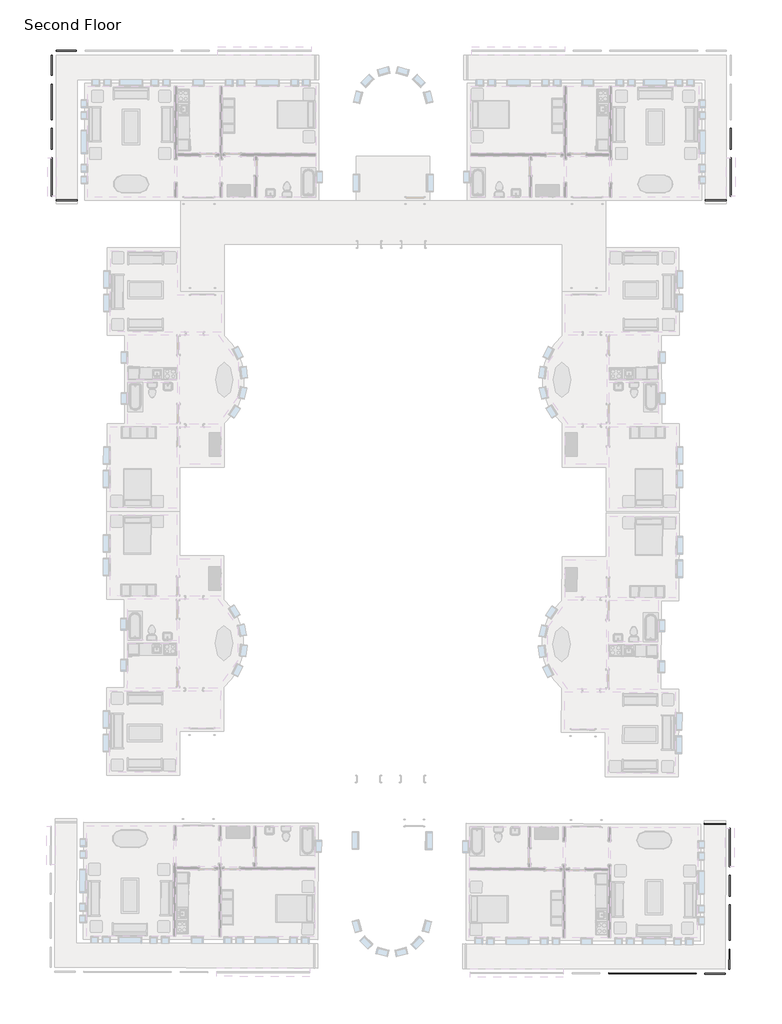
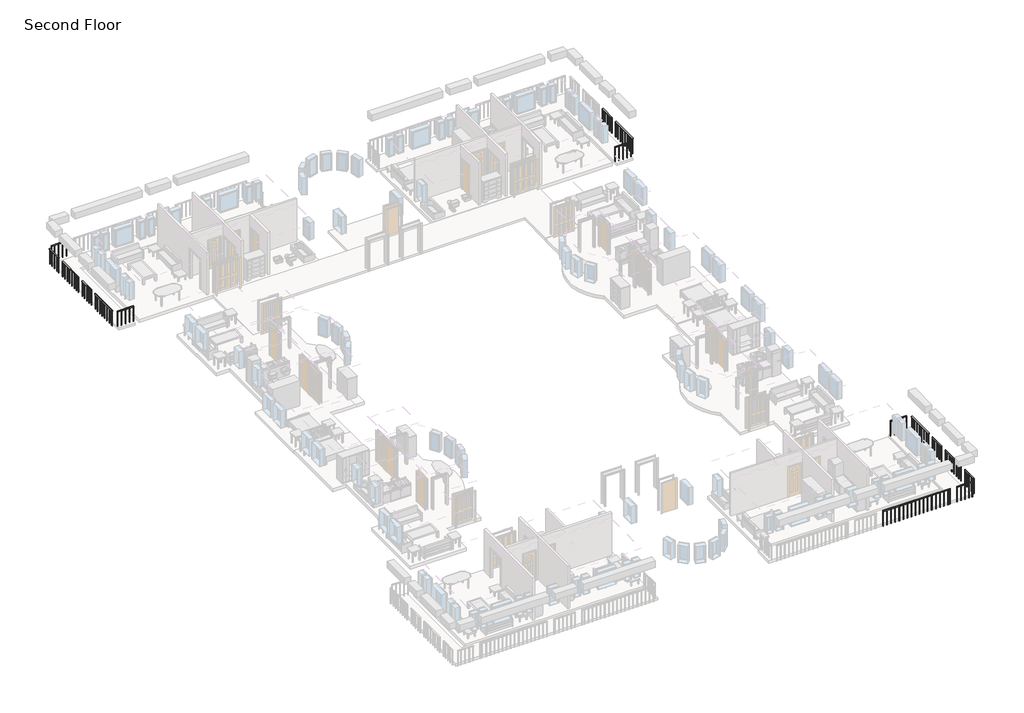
# One storey, part 5 of 8: 16 railings.
"""IFC4 building model written with IfcOpenShell, lengths in millimetres."""

from ifc_helpers import new_model, si_unit, frame, origin, place, context, project, spatial, polyline, outline, extrude, element, save

model = new_model("IFC4")

# Units and contexts
model_context = context("Model", 3, world=origin())
ifc_project = project(units=[si_unit("LENGTHUNIT", "METRE", prefix="MILLI")], contexts=[model_context])

# Site, building, storey
site = spatial("IfcSite", under=ifc_project)
building = spatial("IfcBuilding", under=site)
storey = spatial("IfcBuildingStorey", under=building, Name="Second Floor", Elevation=3048.0)

# Railings
placement = place(None, origin())
element("IfcRailing", 1, ObjectType="1100mm", at=placement, inside=storey, context=model_context, shape_type="SweptSolid", body=[
    extrude(outline(polyline([(-1443.3416203, 231.1188386), (-1393.3416203, 231.1188386), (-1393.3416203, -845.3811614), (-1443.3416203, -845.3811614), (-1443.3416203, 231.1188386)])), frame((0.0, 0.0, 4098.0), z_axis=(0.0, 0.0, 1.0), x_axis=(1.0, 0.0, 0.0)), (0.0, 0.0, 1.0), 50.0),
    extrude(outline(polyline([(-1430.8416203, -581.3811614), (-1405.8416203, -581.3811614), (-1405.8416203, -606.3811614), (-1430.8416203, -606.3811614), (-1430.8416203, -581.3811614)])), frame((0.0, 0.0, 3048.0), z_axis=(0.0, 0.0, 1.0), x_axis=(1.0, 0.0, 0.0)), (0.0, 0.0, 1.0), 1050.0),
    extrude(outline(polyline([(-1430.8416203, -306.3811614), (-1405.8416203, -306.3811614), (-1405.8416203, -331.3811614), (-1430.8416203, -331.3811614), (-1430.8416203, -306.3811614)])), frame((0.0, 0.0, 3048.0), z_axis=(0.0, 0.0, 1.0), x_axis=(1.0, 0.0, 0.0)), (0.0, 0.0, 1.0), 1050.0),
    extrude(outline(polyline([(-1430.8416203, -31.3811614), (-1405.8416203, -31.3811614), (-1405.8416203, -56.3811614), (-1430.8416203, -56.3811614), (-1430.8416203, -31.3811614)])), frame((0.0, 0.0, 3048.0), z_axis=(0.0, 0.0, 1.0), x_axis=(1.0, 0.0, 0.0)), (0.0, 0.0, 1.0), 1050.0),
    extrude(outline(polyline([(-1430.8416203, -820.3811614), (-1405.8416203, -820.3811614), (-1405.8416203, -845.3811614), (-1430.8416203, -845.3811614), (-1430.8416203, -820.3811614)])), frame((0.0, 0.0, 3048.0), z_axis=(0.0, 0.0, 1.0), x_axis=(1.0, 0.0, 0.0)), (0.0, 0.0, 1.0), 1050.0),
    extrude(outline(polyline([(-1430.8416203, 231.1188386), (-1405.8416203, 231.1188386), (-1405.8416203, 206.1188386), (-1430.8416203, 206.1188386), (-1430.8416203, 231.1188386)])), frame((0.0, 0.0, 3048.0), z_axis=(0.0, 0.0, 1.0), x_axis=(1.0, 0.0, 0.0)), (0.0, 0.0, 1.0), 1050.0),
])
element("IfcRailing", 2, ObjectType="1100mm", at=placement, inside=storey, context=model_context, shape_type="SweptSolid", body=[
    extrude(outline(polyline([(-1443.3416203, -1295.3811614), (-1393.3416203, -1295.3811614), (-1393.3416203, -3289.8811614), (-1443.3416203, -3289.8811614), (-1443.3416203, -1295.3811614)])), frame((0.0, 0.0, 4098.0), z_axis=(0.0, 0.0, 1.0), x_axis=(1.0, 0.0, 0.0)), (0.0, 0.0, 1.0), 50.0),
    extrude(outline(polyline([(-1430.8416203, -3207.8811614), (-1405.8416203, -3207.8811614), (-1405.8416203, -3232.8811614), (-1430.8416203, -3232.8811614), (-1430.8416203, -3207.8811614)])), frame((0.0, 0.0, 3048.0), z_axis=(0.0, 0.0, 1.0), x_axis=(1.0, 0.0, 0.0)), (0.0, 0.0, 1.0), 1050.0),
    extrude(outline(polyline([(-1430.8416203, -2932.8811614), (-1405.8416203, -2932.8811614), (-1405.8416203, -2957.8811614), (-1430.8416203, -2957.8811614), (-1430.8416203, -2932.8811614)])), frame((0.0, 0.0, 3048.0), z_axis=(0.0, 0.0, 1.0), x_axis=(1.0, 0.0, 0.0)), (0.0, 0.0, 1.0), 1050.0),
    extrude(outline(polyline([(-1430.8416203, -2657.8811614), (-1405.8416203, -2657.8811614), (-1405.8416203, -2682.8811614), (-1430.8416203, -2682.8811614), (-1430.8416203, -2657.8811614)])), frame((0.0, 0.0, 3048.0), z_axis=(0.0, 0.0, 1.0), x_axis=(1.0, 0.0, 0.0)), (0.0, 0.0, 1.0), 1050.0),
    extrude(outline(polyline([(-1430.8416203, -2382.8811614), (-1405.8416203, -2382.8811614), (-1405.8416203, -2407.8811614), (-1430.8416203, -2407.8811614), (-1430.8416203, -2382.8811614)])), frame((0.0, 0.0, 3048.0), z_axis=(0.0, 0.0, 1.0), x_axis=(1.0, 0.0, 0.0)), (0.0, 0.0, 1.0), 1050.0),
    extrude(outline(polyline([(-1430.8416203, -2107.8811614), (-1405.8416203, -2107.8811614), (-1405.8416203, -2132.8811614), (-1430.8416203, -2132.8811614), (-1430.8416203, -2107.8811614)])), frame((0.0, 0.0, 3048.0), z_axis=(0.0, 0.0, 1.0), x_axis=(1.0, 0.0, 0.0)), (0.0, 0.0, 1.0), 1050.0),
    extrude(outline(polyline([(-1430.8416203, -1832.8811614), (-1405.8416203, -1832.8811614), (-1405.8416203, -1857.8811614), (-1430.8416203, -1857.8811614), (-1430.8416203, -1832.8811614)])), frame((0.0, 0.0, 3048.0), z_axis=(0.0, 0.0, 1.0), x_axis=(1.0, 0.0, 0.0)), (0.0, 0.0, 1.0), 1050.0),
    extrude(outline(polyline([(-1430.8416203, -1557.8811614), (-1405.8416203, -1557.8811614), (-1405.8416203, -1582.8811614), (-1430.8416203, -1582.8811614), (-1430.8416203, -1557.8811614)])), frame((0.0, 0.0, 3048.0), z_axis=(0.0, 0.0, 1.0), x_axis=(1.0, 0.0, 0.0)), (0.0, 0.0, 1.0), 1050.0),
    extrude(outline(polyline([(-1430.8416203, -3264.8811614), (-1405.8416203, -3264.8811614), (-1405.8416203, -3289.8811614), (-1430.8416203, -3289.8811614), (-1430.8416203, -3264.8811614)])), frame((0.0, 0.0, 3048.0), z_axis=(0.0, 0.0, 1.0), x_axis=(1.0, 0.0, 0.0)), (0.0, 0.0, 1.0), 1050.0),
    extrude(outline(polyline([(-1430.8416203, -1295.3811614), (-1405.8416203, -1295.3811614), (-1405.8416203, -1320.3811614), (-1430.8416203, -1320.3811614), (-1430.8416203, -1295.3811614)])), frame((0.0, 0.0, 3048.0), z_axis=(0.0, 0.0, 1.0), x_axis=(1.0, 0.0, 0.0)), (0.0, 0.0, 1.0), 1050.0),
])
element("IfcRailing", 3, ObjectType="1100mm", at=placement, inside=storey, context=model_context, shape_type="SweptSolid", body=[
    extrude(outline(polyline([(-1643.3416203, -3489.8811614), (-1643.3416203, -3539.8811614), (-2743.3416203, -3539.8811614), (-2743.3416203, -3489.8811614), (-1643.3416203, -3489.8811614)])), frame((0.0, 0.0, 4098.0), z_axis=(0.0, 0.0, 1.0), x_axis=(1.0, 0.0, 0.0)), (0.0, 0.0, 1.0), 50.0),
    extrude(outline(polyline([(-2455.8416203, -3502.3811614), (-2455.8416203, -3527.3811614), (-2480.8416203, -3527.3811614), (-2480.8416203, -3502.3811614), (-2455.8416203, -3502.3811614)])), frame((0.0, 0.0, 3048.0), z_axis=(0.0, 0.0, 1.0), x_axis=(1.0, 0.0, 0.0)), (0.0, 0.0, 1.0), 1050.0),
    extrude(outline(polyline([(-2180.8416203, -3502.3811614), (-2180.8416203, -3527.3811614), (-2205.8416203, -3527.3811614), (-2205.8416203, -3502.3811614), (-2180.8416203, -3502.3811614)])), frame((0.0, 0.0, 3048.0), z_axis=(0.0, 0.0, 1.0), x_axis=(1.0, 0.0, 0.0)), (0.0, 0.0, 1.0), 1050.0),
    extrude(outline(polyline([(-1905.8416203, -3502.3811614), (-1905.8416203, -3527.3811614), (-1930.8416203, -3527.3811614), (-1930.8416203, -3502.3811614), (-1905.8416203, -3502.3811614)])), frame((0.0, 0.0, 3048.0), z_axis=(0.0, 0.0, 1.0), x_axis=(1.0, 0.0, 0.0)), (0.0, 0.0, 1.0), 1050.0),
    extrude(outline(polyline([(-2718.3416203, -3502.3811614), (-2718.3416203, -3527.3811614), (-2743.3416203, -3527.3811614), (-2743.3416203, -3502.3811614), (-2718.3416203, -3502.3811614)])), frame((0.0, 0.0, 3048.0), z_axis=(0.0, 0.0, 1.0), x_axis=(1.0, 0.0, 0.0)), (0.0, 0.0, 1.0), 1050.0),
    extrude(outline(polyline([(-1643.3416203, -3502.3811614), (-1643.3416203, -3527.3811614), (-1668.3416203, -3527.3811614), (-1668.3416203, -3502.3811614), (-1643.3416203, -3502.3811614)])), frame((0.0, 0.0, 3048.0), z_axis=(0.0, 0.0, 1.0), x_axis=(1.0, 0.0, 0.0)), (0.0, 0.0, 1.0), 1050.0),
])
element("IfcRailing", 4, ObjectType="1100mm", at=placement, inside=storey, context=model_context, shape_type="SweptSolid", body=[
    extrude(outline(polyline([(-35408.8416203, 4281.1188386), (-35408.8416203, 4231.1188386), (-36458.8416203, 4231.1188386), (-36458.8416203, 4281.1188386), (-35408.8416203, 4281.1188386)])), frame((0.0, 0.0, 4098.0), z_axis=(0.0, 0.0, 1.0), x_axis=(1.0, 0.0, 0.0)), (0.0, 0.0, 1.0), 50.0),
    extrude(outline(polyline([(-36221.3416203, 4243.6188386), (-36246.3416203, 4243.6188386), (-36246.3416203, 4268.6188386), (-36221.3416203, 4268.6188386), (-36221.3416203, 4243.6188386)])), frame((0.0, 0.0, 3048.0), z_axis=(0.0, 0.0, 1.0), x_axis=(1.0, 0.0, 0.0)), (0.0, 0.0, 1.0), 1050.0),
    extrude(outline(polyline([(-35946.3416203, 4243.6188386), (-35971.3416203, 4243.6188386), (-35971.3416203, 4268.6188386), (-35946.3416203, 4268.6188386), (-35946.3416203, 4243.6188386)])), frame((0.0, 0.0, 3048.0), z_axis=(0.0, 0.0, 1.0), x_axis=(1.0, 0.0, 0.0)), (0.0, 0.0, 1.0), 1050.0),
    extrude(outline(polyline([(-35671.3416203, 4243.6188386), (-35696.3416203, 4243.6188386), (-35696.3416203, 4268.6188386), (-35671.3416203, 4268.6188386), (-35671.3416203, 4243.6188386)])), frame((0.0, 0.0, 3048.0), z_axis=(0.0, 0.0, 1.0), x_axis=(1.0, 0.0, 0.0)), (0.0, 0.0, 1.0), 1050.0),
    extrude(outline(polyline([(-36433.8416203, 4243.6188386), (-36458.8416203, 4243.6188386), (-36458.8416203, 4268.6188386), (-36433.8416203, 4268.6188386), (-36433.8416203, 4243.6188386)])), frame((0.0, 0.0, 3048.0), z_axis=(0.0, 0.0, 1.0), x_axis=(1.0, 0.0, 0.0)), (0.0, 0.0, 1.0), 1050.0),
    extrude(outline(polyline([(-35408.8416203, 4243.6188386), (-35433.8416203, 4243.6188386), (-35433.8416203, 4268.6188386), (-35408.8416203, 4268.6188386), (-35408.8416203, 4243.6188386)])), frame((0.0, 0.0, 3048.0), z_axis=(0.0, 0.0, 1.0), x_axis=(1.0, 0.0, 0.0)), (0.0, 0.0, 1.0), 1050.0),
])
element("IfcRailing", 5, ObjectType="1100mm", at=placement, inside=storey, context=model_context, shape_type="SweptSolid", body=[
    extrude(outline(polyline([(-36708.8416203, 4031.1188386), (-36658.8416203, 4031.1188386), (-36658.8416203, 2981.1188386), (-36708.8416203, 2981.1188386), (-36708.8416203, 4031.1188386)])), frame((0.0, 0.0, 4098.0), z_axis=(0.0, 0.0, 1.0), x_axis=(1.0, 0.0, 0.0)), (0.0, 0.0, 1.0), 50.0),
    extrude(outline(polyline([(-36671.3416203, 3218.6188386), (-36671.3416203, 3193.6188386), (-36696.3416203, 3193.6188386), (-36696.3416203, 3218.6188386), (-36671.3416203, 3218.6188386)])), frame((0.0, 0.0, 3048.0), z_axis=(0.0, 0.0, 1.0), x_axis=(1.0, 0.0, 0.0)), (0.0, 0.0, 1.0), 1050.0),
    extrude(outline(polyline([(-36671.3416203, 3493.6188386), (-36671.3416203, 3468.6188386), (-36696.3416203, 3468.6188386), (-36696.3416203, 3493.6188386), (-36671.3416203, 3493.6188386)])), frame((0.0, 0.0, 3048.0), z_axis=(0.0, 0.0, 1.0), x_axis=(1.0, 0.0, 0.0)), (0.0, 0.0, 1.0), 1050.0),
    extrude(outline(polyline([(-36671.3416203, 3768.6188386), (-36671.3416203, 3743.6188386), (-36696.3416203, 3743.6188386), (-36696.3416203, 3768.6188386), (-36671.3416203, 3768.6188386)])), frame((0.0, 0.0, 3048.0), z_axis=(0.0, 0.0, 1.0), x_axis=(1.0, 0.0, 0.0)), (0.0, 0.0, 1.0), 1050.0),
    extrude(outline(polyline([(-36671.3416203, 3006.1188386), (-36671.3416203, 2981.1188386), (-36696.3416203, 2981.1188386), (-36696.3416203, 3006.1188386), (-36671.3416203, 3006.1188386)])), frame((0.0, 0.0, 3048.0), z_axis=(0.0, 0.0, 1.0), x_axis=(1.0, 0.0, 0.0)), (0.0, 0.0, 1.0), 1050.0),
    extrude(outline(polyline([(-36671.3416203, 4031.1188386), (-36671.3416203, 4006.1188386), (-36696.3416203, 4006.1188386), (-36696.3416203, 4031.1188386), (-36671.3416203, 4031.1188386)])), frame((0.0, 0.0, 3048.0), z_axis=(0.0, 0.0, 1.0), x_axis=(1.0, 0.0, 0.0)), (0.0, 0.0, 1.0), 1050.0),
])
element("IfcRailing", 6, ObjectType="1100mm", at=placement, inside=storey, context=model_context, shape_type="SweptSolid", body=[
    extrude(outline(polyline([(-36708.8416203, 2531.1188386), (-36658.8416203, 2531.1188386), (-36658.8416203, 681.1188386), (-36708.8416203, 681.1188386), (-36708.8416203, 2531.1188386)])), frame((0.0, 0.0, 4098.0), z_axis=(0.0, 0.0, 1.0), x_axis=(1.0, 0.0, 0.0)), (0.0, 0.0, 1.0), 50.0),
    extrude(outline(polyline([(-36671.3416203, 893.6188386), (-36671.3416203, 868.6188386), (-36696.3416203, 868.6188386), (-36696.3416203, 893.6188386), (-36671.3416203, 893.6188386)])), frame((0.0, 0.0, 3048.0), z_axis=(0.0, 0.0, 1.0), x_axis=(1.0, 0.0, 0.0)), (0.0, 0.0, 1.0), 1050.0),
    extrude(outline(polyline([(-36671.3416203, 1168.6188386), (-36671.3416203, 1143.6188386), (-36696.3416203, 1143.6188386), (-36696.3416203, 1168.6188386), (-36671.3416203, 1168.6188386)])), frame((0.0, 0.0, 3048.0), z_axis=(0.0, 0.0, 1.0), x_axis=(1.0, 0.0, 0.0)), (0.0, 0.0, 1.0), 1050.0),
    extrude(outline(polyline([(-36671.3416203, 1443.6188386), (-36671.3416203, 1418.6188386), (-36696.3416203, 1418.6188386), (-36696.3416203, 1443.6188386), (-36671.3416203, 1443.6188386)])), frame((0.0, 0.0, 3048.0), z_axis=(0.0, 0.0, 1.0), x_axis=(1.0, 0.0, 0.0)), (0.0, 0.0, 1.0), 1050.0),
    extrude(outline(polyline([(-36671.3416203, 1718.6188386), (-36671.3416203, 1693.6188386), (-36696.3416203, 1693.6188386), (-36696.3416203, 1718.6188386), (-36671.3416203, 1718.6188386)])), frame((0.0, 0.0, 3048.0), z_axis=(0.0, 0.0, 1.0), x_axis=(1.0, 0.0, 0.0)), (0.0, 0.0, 1.0), 1050.0),
    extrude(outline(polyline([(-36671.3416203, 1993.6188386), (-36671.3416203, 1968.6188386), (-36696.3416203, 1968.6188386), (-36696.3416203, 1993.6188386), (-36671.3416203, 1993.6188386)])), frame((0.0, 0.0, 3048.0), z_axis=(0.0, 0.0, 1.0), x_axis=(1.0, 0.0, 0.0)), (0.0, 0.0, 1.0), 1050.0),
    extrude(outline(polyline([(-36671.3416203, 2268.6188386), (-36671.3416203, 2243.6188386), (-36696.3416203, 2243.6188386), (-36696.3416203, 2268.6188386), (-36671.3416203, 2268.6188386)])), frame((0.0, 0.0, 3048.0), z_axis=(0.0, 0.0, 1.0), x_axis=(1.0, 0.0, 0.0)), (0.0, 0.0, 1.0), 1050.0),
    extrude(outline(polyline([(-36671.3416203, 706.1188386), (-36671.3416203, 681.1188386), (-36696.3416203, 681.1188386), (-36696.3416203, 706.1188386), (-36671.3416203, 706.1188386)])), frame((0.0, 0.0, 3048.0), z_axis=(0.0, 0.0, 1.0), x_axis=(1.0, 0.0, 0.0)), (0.0, 0.0, 1.0), 1050.0),
    extrude(outline(polyline([(-36671.3416203, 2531.1188386), (-36671.3416203, 2506.1188386), (-36696.3416203, 2506.1188386), (-36696.3416203, 2531.1188386), (-36671.3416203, 2531.1188386)])), frame((0.0, 0.0, 3048.0), z_axis=(0.0, 0.0, 1.0), x_axis=(1.0, 0.0, 0.0)), (0.0, 0.0, 1.0), 1050.0),
])
element("IfcRailing", 7, ObjectType="1100mm", at=placement, inside=storey, context=model_context, shape_type="SweptSolid", body=[
    extrude(outline(polyline([(-36708.8416203, 231.1188386), (-36658.8416203, 231.1188386), (-36658.8416203, -845.3811614), (-36708.8416203, -845.3811614), (-36708.8416203, 231.1188386)])), frame((0.0, 0.0, 4098.0), z_axis=(0.0, 0.0, 1.0), x_axis=(1.0, 0.0, 0.0)), (0.0, 0.0, 1.0), 50.0),
    extrude(outline(polyline([(-36671.3416203, -581.3811614), (-36671.3416203, -606.3811614), (-36696.3416203, -606.3811614), (-36696.3416203, -581.3811614), (-36671.3416203, -581.3811614)])), frame((0.0, 0.0, 3048.0), z_axis=(0.0, 0.0, 1.0), x_axis=(1.0, 0.0, 0.0)), (0.0, 0.0, 1.0), 1050.0),
    extrude(outline(polyline([(-36671.3416203, -306.3811614), (-36671.3416203, -331.3811614), (-36696.3416203, -331.3811614), (-36696.3416203, -306.3811614), (-36671.3416203, -306.3811614)])), frame((0.0, 0.0, 3048.0), z_axis=(0.0, 0.0, 1.0), x_axis=(1.0, 0.0, 0.0)), (0.0, 0.0, 1.0), 1050.0),
    extrude(outline(polyline([(-36671.3416203, -31.3811614), (-36671.3416203, -56.3811614), (-36696.3416203, -56.3811614), (-36696.3416203, -31.3811614), (-36671.3416203, -31.3811614)])), frame((0.0, 0.0, 3048.0), z_axis=(0.0, 0.0, 1.0), x_axis=(1.0, 0.0, 0.0)), (0.0, 0.0, 1.0), 1050.0),
    extrude(outline(polyline([(-36671.3416203, -820.3811614), (-36671.3416203, -845.3811614), (-36696.3416203, -845.3811614), (-36696.3416203, -820.3811614), (-36671.3416203, -820.3811614)])), frame((0.0, 0.0, 3048.0), z_axis=(0.0, 0.0, 1.0), x_axis=(1.0, 0.0, 0.0)), (0.0, 0.0, 1.0), 1050.0),
    extrude(outline(polyline([(-36671.3416203, 231.1188386), (-36671.3416203, 206.1188386), (-36696.3416203, 206.1188386), (-36696.3416203, 231.1188386), (-36671.3416203, 231.1188386)])), frame((0.0, 0.0, 3048.0), z_axis=(0.0, 0.0, 1.0), x_axis=(1.0, 0.0, 0.0)), (0.0, 0.0, 1.0), 1050.0),
])
element("IfcRailing", 8, ObjectType="1100mm", at=placement, inside=storey, context=model_context, shape_type="SweptSolid", body=[
    extrude(outline(polyline([(-36708.8416203, -1295.3811614), (-36658.8416203, -1295.3811614), (-36658.8416203, -3289.8811614), (-36708.8416203, -3289.8811614), (-36708.8416203, -1295.3811614)])), frame((0.0, 0.0, 4098.0), z_axis=(0.0, 0.0, 1.0), x_axis=(1.0, 0.0, 0.0)), (0.0, 0.0, 1.0), 50.0),
    extrude(outline(polyline([(-36671.3416203, -3207.8811614), (-36671.3416203, -3232.8811614), (-36696.3416203, -3232.8811614), (-36696.3416203, -3207.8811614), (-36671.3416203, -3207.8811614)])), frame((0.0, 0.0, 3048.0), z_axis=(0.0, 0.0, 1.0), x_axis=(1.0, 0.0, 0.0)), (0.0, 0.0, 1.0), 1050.0),
    extrude(outline(polyline([(-36671.3416203, -2932.8811614), (-36671.3416203, -2957.8811614), (-36696.3416203, -2957.8811614), (-36696.3416203, -2932.8811614), (-36671.3416203, -2932.8811614)])), frame((0.0, 0.0, 3048.0), z_axis=(0.0, 0.0, 1.0), x_axis=(1.0, 0.0, 0.0)), (0.0, 0.0, 1.0), 1050.0),
    extrude(outline(polyline([(-36671.3416203, -2657.8811614), (-36671.3416203, -2682.8811614), (-36696.3416203, -2682.8811614), (-36696.3416203, -2657.8811614), (-36671.3416203, -2657.8811614)])), frame((0.0, 0.0, 3048.0), z_axis=(0.0, 0.0, 1.0), x_axis=(1.0, 0.0, 0.0)), (0.0, 0.0, 1.0), 1050.0),
    extrude(outline(polyline([(-36671.3416203, -2382.8811614), (-36671.3416203, -2407.8811614), (-36696.3416203, -2407.8811614), (-36696.3416203, -2382.8811614), (-36671.3416203, -2382.8811614)])), frame((0.0, 0.0, 3048.0), z_axis=(0.0, 0.0, 1.0), x_axis=(1.0, 0.0, 0.0)), (0.0, 0.0, 1.0), 1050.0),
    extrude(outline(polyline([(-36671.3416203, -2107.8811614), (-36671.3416203, -2132.8811614), (-36696.3416203, -2132.8811614), (-36696.3416203, -2107.8811614), (-36671.3416203, -2107.8811614)])), frame((0.0, 0.0, 3048.0), z_axis=(0.0, 0.0, 1.0), x_axis=(1.0, 0.0, 0.0)), (0.0, 0.0, 1.0), 1050.0),
    extrude(outline(polyline([(-36671.3416203, -1832.8811614), (-36671.3416203, -1857.8811614), (-36696.3416203, -1857.8811614), (-36696.3416203, -1832.8811614), (-36671.3416203, -1832.8811614)])), frame((0.0, 0.0, 3048.0), z_axis=(0.0, 0.0, 1.0), x_axis=(1.0, 0.0, 0.0)), (0.0, 0.0, 1.0), 1050.0),
    extrude(outline(polyline([(-36671.3416203, -1557.8811614), (-36671.3416203, -1582.8811614), (-36696.3416203, -1582.8811614), (-36696.3416203, -1557.8811614), (-36671.3416203, -1557.8811614)])), frame((0.0, 0.0, 3048.0), z_axis=(0.0, 0.0, 1.0), x_axis=(1.0, 0.0, 0.0)), (0.0, 0.0, 1.0), 1050.0),
    extrude(outline(polyline([(-36671.3416203, -3264.8811614), (-36671.3416203, -3289.8811614), (-36696.3416203, -3289.8811614), (-36696.3416203, -3264.8811614), (-36671.3416203, -3264.8811614)])), frame((0.0, 0.0, 3048.0), z_axis=(0.0, 0.0, 1.0), x_axis=(1.0, 0.0, 0.0)), (0.0, 0.0, 1.0), 1050.0),
    extrude(outline(polyline([(-36671.3416203, -1295.3811614), (-36671.3416203, -1320.3811614), (-36696.3416203, -1320.3811614), (-36696.3416203, -1295.3811614), (-36671.3416203, -1295.3811614)])), frame((0.0, 0.0, 3048.0), z_axis=(0.0, 0.0, 1.0), x_axis=(1.0, 0.0, 0.0)), (0.0, 0.0, 1.0), 1050.0),
])
element("IfcRailing", 9, ObjectType="1100mm", at=placement, inside=storey, context=model_context, shape_type="SweptSolid", body=[
    extrude(outline(polyline([(-36458.8416203, -3539.8811614), (-36458.8416203, -3489.8811614), (-35358.8416203, -3489.8811614), (-35358.8416203, -3539.8811614), (-36458.8416203, -3539.8811614)])), frame((0.0, 0.0, 4098.0), z_axis=(0.0, 0.0, 1.0), x_axis=(1.0, 0.0, 0.0)), (0.0, 0.0, 1.0), 50.0),
    extrude(outline(polyline([(-35646.3416203, -3502.3811614), (-35621.3416203, -3502.3811614), (-35621.3416203, -3527.3811614), (-35646.3416203, -3527.3811614), (-35646.3416203, -3502.3811614)])), frame((0.0, 0.0, 3048.0), z_axis=(0.0, 0.0, 1.0), x_axis=(1.0, 0.0, 0.0)), (0.0, 0.0, 1.0), 1050.0),
    extrude(outline(polyline([(-35921.3416203, -3502.3811614), (-35896.3416203, -3502.3811614), (-35896.3416203, -3527.3811614), (-35921.3416203, -3527.3811614), (-35921.3416203, -3502.3811614)])), frame((0.0, 0.0, 3048.0), z_axis=(0.0, 0.0, 1.0), x_axis=(1.0, 0.0, 0.0)), (0.0, 0.0, 1.0), 1050.0),
    extrude(outline(polyline([(-36196.3416203, -3502.3811614), (-36171.3416203, -3502.3811614), (-36171.3416203, -3527.3811614), (-36196.3416203, -3527.3811614), (-36196.3416203, -3502.3811614)])), frame((0.0, 0.0, 3048.0), z_axis=(0.0, 0.0, 1.0), x_axis=(1.0, 0.0, 0.0)), (0.0, 0.0, 1.0), 1050.0),
    extrude(outline(polyline([(-35383.8416203, -3502.3811614), (-35358.8416203, -3502.3811614), (-35358.8416203, -3527.3811614), (-35383.8416203, -3527.3811614), (-35383.8416203, -3502.3811614)])), frame((0.0, 0.0, 3048.0), z_axis=(0.0, 0.0, 1.0), x_axis=(1.0, 0.0, 0.0)), (0.0, 0.0, 1.0), 1050.0),
    extrude(outline(polyline([(-36458.8416203, -3502.3811614), (-36433.8416203, -3502.3811614), (-36433.8416203, -3527.3811614), (-36458.8416203, -3527.3811614), (-36458.8416203, -3502.3811614)])), frame((0.0, 0.0, 3048.0), z_axis=(0.0, 0.0, 1.0), x_axis=(1.0, 0.0, 0.0)), (0.0, 0.0, 1.0), 1050.0),
])
element("IfcRailing", 10, ObjectType="1100mm", at=placement, inside=storey, context=model_context, shape_type="SweptSolid", body=[
    extrude(outline(polyline([(-7762.7673241, -43683.6906721), (-7762.6225814, -43633.6908816), (-3212.6416463, -43646.8624669), (-3212.786389, -43696.8622574), (-7762.7673241, -43683.6906721)])), frame((0.0, 0.0, 4098.0), z_axis=(0.0, 0.0, 1.0), x_axis=(1.0, 0.0, 0.0)), (0.0, 0.0, 1.0), 50.0),
    extrude(outline(polyline([(-3375.1771511, -43658.8920008), (-3350.1772558, -43658.9643721), (-3350.2496272, -43683.9642674), (-3375.2495224, -43683.891896), (-3375.1771511, -43658.8920008)])), frame((0.0, 0.0, 3048.0), z_axis=(0.0, 0.0, 1.0), x_axis=(1.0, 0.0, 0.0)), (0.0, 0.0, 1.0), 1050.0),
    extrude(outline(polyline([(-3650.1759988, -43658.095916), (-3625.1761036, -43658.1682873), (-3625.2484749, -43683.1681826), (-3650.2483702, -43683.0958112), (-3650.1759988, -43658.095916)])), frame((0.0, 0.0, 3048.0), z_axis=(0.0, 0.0, 1.0), x_axis=(1.0, 0.0, 0.0)), (0.0, 0.0, 1.0), 1050.0),
    extrude(outline(polyline([(-3925.1748465, -43657.2998311), (-3900.1749513, -43657.3722025), (-3900.2473226, -43682.3720977), (-3925.2472179, -43682.2997264), (-3925.1748465, -43657.2998311)])), frame((0.0, 0.0, 3048.0), z_axis=(0.0, 0.0, 1.0), x_axis=(1.0, 0.0, 0.0)), (0.0, 0.0, 1.0), 1050.0),
    extrude(outline(polyline([(-4200.1736943, -43656.5037463), (-4175.173799, -43656.5761177), (-4175.2461704, -43681.5760129), (-4200.2460656, -43681.5036416), (-4200.1736943, -43656.5037463)])), frame((0.0, 0.0, 3048.0), z_axis=(0.0, 0.0, 1.0), x_axis=(1.0, 0.0, 0.0)), (0.0, 0.0, 1.0), 1050.0),
    extrude(outline(polyline([(-4475.172542, -43655.7076615), (-4450.1726467, -43655.7800328), (-4450.2450181, -43680.7799281), (-4475.2449133, -43680.7075567), (-4475.172542, -43655.7076615)])), frame((0.0, 0.0, 3048.0), z_axis=(0.0, 0.0, 1.0), x_axis=(1.0, 0.0, 0.0)), (0.0, 0.0, 1.0), 1050.0),
    extrude(outline(polyline([(-4750.1713897, -43654.9115767), (-4725.1714945, -43654.983948), (-4725.2438658, -43679.9838433), (-4750.243761, -43679.9114719), (-4750.1713897, -43654.9115767)])), frame((0.0, 0.0, 3048.0), z_axis=(0.0, 0.0, 1.0), x_axis=(1.0, 0.0, 0.0)), (0.0, 0.0, 1.0), 1050.0),
    extrude(outline(polyline([(-5025.1702374, -43654.1154918), (-5000.1703422, -43654.1878632), (-5000.2427135, -43679.1877584), (-5025.2426088, -43679.1153871), (-5025.1702374, -43654.1154918)])), frame((0.0, 0.0, 3048.0), z_axis=(0.0, 0.0, 1.0), x_axis=(1.0, 0.0, 0.0)), (0.0, 0.0, 1.0), 1050.0),
    extrude(outline(polyline([(-5300.1690851, -43653.319407), (-5275.1691899, -43653.3917784), (-5275.2415612, -43678.3916736), (-5300.2414565, -43678.3193023), (-5300.1690851, -43653.319407)])), frame((0.0, 0.0, 3048.0), z_axis=(0.0, 0.0, 1.0), x_axis=(1.0, 0.0, 0.0)), (0.0, 0.0, 1.0), 1050.0),
    extrude(outline(polyline([(-5575.1679329, -43652.5233222), (-5550.1680376, -43652.5956935), (-5550.240409, -43677.5955888), (-5575.2403042, -43677.5232174), (-5575.1679329, -43652.5233222)])), frame((0.0, 0.0, 3048.0), z_axis=(0.0, 0.0, 1.0), x_axis=(1.0, 0.0, 0.0)), (0.0, 0.0, 1.0), 1050.0),
    extrude(outline(polyline([(-5850.1667806, -43651.7272374), (-5825.1668853, -43651.7996087), (-5825.2392567, -43676.799504), (-5850.2391519, -43676.7271326), (-5850.1667806, -43651.7272374)])), frame((0.0, 0.0, 3048.0), z_axis=(0.0, 0.0, 1.0), x_axis=(1.0, 0.0, 0.0)), (0.0, 0.0, 1.0), 1050.0),
    extrude(outline(polyline([(-6125.1656283, -43650.9311525), (-6100.1657331, -43651.0035239), (-6100.2381044, -43676.0034191), (-6125.2379997, -43675.9310478), (-6125.1656283, -43650.9311525)])), frame((0.0, 0.0, 3048.0), z_axis=(0.0, 0.0, 1.0), x_axis=(1.0, 0.0, 0.0)), (0.0, 0.0, 1.0), 1050.0),
    extrude(outline(polyline([(-6400.164476, -43650.1350677), (-6375.1645808, -43650.2074391), (-6375.2369521, -43675.2073343), (-6400.2368474, -43675.134963), (-6400.164476, -43650.1350677)])), frame((0.0, 0.0, 3048.0), z_axis=(0.0, 0.0, 1.0), x_axis=(1.0, 0.0, 0.0)), (0.0, 0.0, 1.0), 1050.0),
    extrude(outline(polyline([(-6675.1633238, -43649.3389829), (-6650.1634285, -43649.4113542), (-6650.2357999, -43674.4112495), (-6675.2356951, -43674.3388781), (-6675.1633238, -43649.3389829)])), frame((0.0, 0.0, 3048.0), z_axis=(0.0, 0.0, 1.0), x_axis=(1.0, 0.0, 0.0)), (0.0, 0.0, 1.0), 1050.0),
    extrude(outline(polyline([(-6950.1621715, -43648.5428981), (-6925.1622762, -43648.6152694), (-6925.2346476, -43673.6151647), (-6950.2345428, -43673.5427933), (-6950.1621715, -43648.5428981)])), frame((0.0, 0.0, 3048.0), z_axis=(0.0, 0.0, 1.0), x_axis=(1.0, 0.0, 0.0)), (0.0, 0.0, 1.0), 1050.0),
    extrude(outline(polyline([(-7225.1610192, -43647.7468132), (-7200.161124, -43647.8191846), (-7200.2334953, -43672.8190798), (-7225.2333906, -43672.7467085), (-7225.1610192, -43647.7468132)])), frame((0.0, 0.0, 3048.0), z_axis=(0.0, 0.0, 1.0), x_axis=(1.0, 0.0, 0.0)), (0.0, 0.0, 1.0), 1050.0),
    extrude(outline(polyline([(-7500.1598669, -43646.9507284), (-7475.1599717, -43647.0230998), (-7475.232343, -43672.022995), (-7500.2322383, -43671.9506237), (-7500.1598669, -43646.9507284)])), frame((0.0, 0.0, 3048.0), z_axis=(0.0, 0.0, 1.0), x_axis=(1.0, 0.0, 0.0)), (0.0, 0.0, 1.0), 1050.0),
    extrude(outline(polyline([(-3237.6777272, -43659.2900432), (-3212.677832, -43659.3624146), (-3212.7502033, -43684.3623098), (-3237.7500986, -43684.2899385), (-3237.6777272, -43659.2900432)])), frame((0.0, 0.0, 3048.0), z_axis=(0.0, 0.0, 1.0), x_axis=(1.0, 0.0, 0.0)), (0.0, 0.0, 1.0), 1050.0),
    extrude(outline(polyline([(-7762.658767, -43646.1908293), (-7737.6588718, -43646.2632006), (-7737.7312431, -43671.2630958), (-7762.7311384, -43671.1907245), (-7762.658767, -43646.1908293)])), frame((0.0, 0.0, 3048.0), z_axis=(0.0, 0.0, 1.0), x_axis=(1.0, 0.0, 0.0)), (0.0, 0.0, 1.0), 1050.0),
])
element("IfcRailing", 11, ObjectType="1100mm", at=placement, inside=storey, context=model_context, shape_type="SweptSolid", body=[
    extrude(outline(polyline([(-2762.7882745, -43698.1649417), (-2762.6435318, -43648.1651512), (-1712.6479315, -43651.2047478), (-1712.7926741, -43701.2045383), (-2762.7882745, -43698.1649417)])), frame((0.0, 0.0, 4098.0), z_axis=(0.0, 0.0, 1.0), x_axis=(1.0, 0.0, 0.0)), (0.0, 0.0, 1.0), 50.0),
    extrude(outline(polyline([(-1950.183122, -43663.0171676), (-1925.1832267, -43663.089539), (-1925.2555981, -43688.0894342), (-1950.2554933, -43688.0170629), (-1950.183122, -43663.0171676)])), frame((0.0, 0.0, 3048.0), z_axis=(0.0, 0.0, 1.0), x_axis=(1.0, 0.0, 0.0)), (0.0, 0.0, 1.0), 1050.0),
    extrude(outline(polyline([(-2225.1819697, -43662.2210828), (-2200.1820745, -43662.2934542), (-2200.2544458, -43687.2933494), (-2225.254341, -43687.2209781), (-2225.1819697, -43662.2210828)])), frame((0.0, 0.0, 3048.0), z_axis=(0.0, 0.0, 1.0), x_axis=(1.0, 0.0, 0.0)), (0.0, 0.0, 1.0), 1050.0),
    extrude(outline(polyline([(-2500.1808174, -43661.424998), (-2475.1809222, -43661.4973693), (-2475.2532935, -43686.4972646), (-2500.2531888, -43686.4248932), (-2500.1808174, -43661.424998)])), frame((0.0, 0.0, 3048.0), z_axis=(0.0, 0.0, 1.0), x_axis=(1.0, 0.0, 0.0)), (0.0, 0.0, 1.0), 1050.0),
    extrude(outline(polyline([(-1737.6840124, -43663.6323241), (-1712.6841171, -43663.7046954), (-1712.7564885, -43688.7045907), (-1737.7563837, -43688.6322193), (-1737.6840124, -43663.6323241)])), frame((0.0, 0.0, 3048.0), z_axis=(0.0, 0.0, 1.0), x_axis=(1.0, 0.0, 0.0)), (0.0, 0.0, 1.0), 1050.0),
    extrude(outline(polyline([(-2762.6797175, -43660.6650988), (-2737.6798223, -43660.7374702), (-2737.7521936, -43685.7373654), (-2762.7520889, -43685.6649941), (-2762.6797175, -43660.6650988)])), frame((0.0, 0.0, 3048.0), z_axis=(0.0, 0.0, 1.0), x_axis=(1.0, 0.0, 0.0)), (0.0, 0.0, 1.0), 1050.0),
])
element("IfcRailing", 12, ObjectType="1100mm", at=placement, inside=storey, context=model_context, shape_type="SweptSolid", body=[
    extrude(outline(polyline([(-1462.0700082, -43451.9292993), (-1512.0697987, -43451.7845566), (-1509.0302021, -42401.7889562), (-1459.0304116, -42401.9336989), (-1462.0700082, -43451.9292993)])), frame((0.0, 0.0, 4098.0), z_axis=(0.0, 0.0, 1.0), x_axis=(1.0, 0.0, 0.0)), (0.0, 0.0, 1.0), 50.0),
    extrude(outline(polyline([(-1497.2177823, -42639.3241467), (-1497.1454109, -42614.3242515), (-1472.1455157, -42614.3966228), (-1472.217887, -42639.3965181), (-1497.2177823, -42639.3241467)])), frame((0.0, 0.0, 3048.0), z_axis=(0.0, 0.0, 1.0), x_axis=(1.0, 0.0, 0.0)), (0.0, 0.0, 1.0), 1050.0),
    extrude(outline(polyline([(-1498.0138671, -42914.3229945), (-1497.9414957, -42889.3230992), (-1472.9416005, -42889.3954706), (-1473.0139718, -42914.3953658), (-1498.0138671, -42914.3229945)])), frame((0.0, 0.0, 3048.0), z_axis=(0.0, 0.0, 1.0), x_axis=(1.0, 0.0, 0.0)), (0.0, 0.0, 1.0), 1050.0),
    extrude(outline(polyline([(-1498.8099519, -43189.3218422), (-1498.7375806, -43164.3219469), (-1473.7376853, -43164.3943183), (-1473.8100567, -43189.3942135), (-1498.8099519, -43189.3218422)])), frame((0.0, 0.0, 3048.0), z_axis=(0.0, 0.0, 1.0), x_axis=(1.0, 0.0, 0.0)), (0.0, 0.0, 1.0), 1050.0),
    extrude(outline(polyline([(-1496.6026258, -42426.8250371), (-1496.5302545, -42401.8251419), (-1471.5303592, -42401.8975132), (-1471.6027306, -42426.8974085), (-1496.6026258, -42426.8250371)])), frame((0.0, 0.0, 3048.0), z_axis=(0.0, 0.0, 1.0), x_axis=(1.0, 0.0, 0.0)), (0.0, 0.0, 1.0), 1050.0),
    extrude(outline(polyline([(-1499.5698511, -43451.8207423), (-1499.4974797, -43426.820847), (-1474.4975845, -43426.8932184), (-1474.5699558, -43451.8931136), (-1499.5698511, -43451.8207423)])), frame((0.0, 0.0, 3048.0), z_axis=(0.0, 0.0, 1.0), x_axis=(1.0, 0.0, 0.0)), (0.0, 0.0, 1.0), 1050.0),
])
element("IfcRailing", 13, ObjectType="1100mm", at=placement, inside=storey, context=model_context, shape_type="SweptSolid", body=[
    extrude(outline(polyline([(-1457.7277273, -41951.9355845), (-1507.7275178, -41951.7908418), (-1502.3720381, -40101.7985934), (-1452.3722476, -40101.9433361), (-1457.7277273, -41951.9355845)])), frame((0.0, 0.0, 4098.0), z_axis=(0.0, 0.0, 1.0), x_axis=(1.0, 0.0, 0.0)), (0.0, 0.0, 1.0), 50.0),
    extrude(outline(polyline([(-1490.4872469, -40314.3338887), (-1490.4148756, -40289.3339935), (-1465.4149803, -40289.4063648), (-1465.4873517, -40314.4062601), (-1490.4872469, -40314.3338887)])), frame((0.0, 0.0, 3048.0), z_axis=(0.0, 0.0, 1.0), x_axis=(1.0, 0.0, 0.0)), (0.0, 0.0, 1.0), 1050.0),
    extrude(outline(polyline([(-1491.2833317, -40589.3327364), (-1491.2109604, -40564.3328412), (-1466.2110651, -40564.4052125), (-1466.2834365, -40589.4051078), (-1491.2833317, -40589.3327364)])), frame((0.0, 0.0, 3048.0), z_axis=(0.0, 0.0, 1.0), x_axis=(1.0, 0.0, 0.0)), (0.0, 0.0, 1.0), 1050.0),
    extrude(outline(polyline([(-1492.0794166, -40864.3315842), (-1492.0070452, -40839.3316889), (-1467.00715, -40839.4040603), (-1467.0795213, -40864.4039555), (-1492.0794166, -40864.3315842)])), frame((0.0, 0.0, 3048.0), z_axis=(0.0, 0.0, 1.0), x_axis=(1.0, 0.0, 0.0)), (0.0, 0.0, 1.0), 1050.0),
    extrude(outline(polyline([(-1492.8755014, -41139.3304319), (-1492.80313, -41114.3305366), (-1467.8032348, -41114.402908), (-1467.8756061, -41139.4028032), (-1492.8755014, -41139.3304319)])), frame((0.0, 0.0, 3048.0), z_axis=(0.0, 0.0, 1.0), x_axis=(1.0, 0.0, 0.0)), (0.0, 0.0, 1.0), 1050.0),
    extrude(outline(polyline([(-1493.6715862, -41414.3292796), (-1493.5992149, -41389.3293844), (-1468.5993196, -41389.4017557), (-1468.671691, -41414.401651), (-1493.6715862, -41414.3292796)])), frame((0.0, 0.0, 3048.0), z_axis=(0.0, 0.0, 1.0), x_axis=(1.0, 0.0, 0.0)), (0.0, 0.0, 1.0), 1050.0),
    extrude(outline(polyline([(-1494.467671, -41689.3281273), (-1494.3952997, -41664.3282321), (-1469.3954044, -41664.4006034), (-1469.4677758, -41689.4004987), (-1494.467671, -41689.3281273)])), frame((0.0, 0.0, 3048.0), z_axis=(0.0, 0.0, 1.0), x_axis=(1.0, 0.0, 0.0)), (0.0, 0.0, 1.0), 1050.0),
    extrude(outline(polyline([(-1489.9444618, -40126.8346744), (-1489.8720905, -40101.8347791), (-1464.8721952, -40101.9071505), (-1464.9445666, -40126.9070457), (-1489.9444618, -40126.8346744)])), frame((0.0, 0.0, 3048.0), z_axis=(0.0, 0.0, 1.0), x_axis=(1.0, 0.0, 0.0)), (0.0, 0.0, 1.0), 1050.0),
    extrude(outline(polyline([(-1495.2275702, -41951.8270274), (-1495.1551988, -41926.8271322), (-1470.1553036, -41926.8995035), (-1470.2276749, -41951.8993988), (-1495.2275702, -41951.8270274)])), frame((0.0, 0.0, 3048.0), z_axis=(0.0, 0.0, 1.0), x_axis=(1.0, 0.0, 0.0)), (0.0, 0.0, 1.0), 1050.0),
])
element("IfcRailing", 14, ObjectType="1100mm", at=placement, inside=storey, context=model_context, shape_type="SweptSolid", body=[
    extrude(outline(polyline([(-1451.0695633, -39651.9452217), (-1501.0693538, -39651.800479), (-1497.9530436, -38575.3049896), (-1447.9532531, -38575.4497323), (-1451.0695633, -39651.9452217)])), frame((0.0, 0.0, 4098.0), z_axis=(0.0, 0.0, 1.0), x_axis=(1.0, 0.0, 0.0)), (0.0, 0.0, 1.0), 50.0),
    extrude(outline(polyline([(-1486.2173374, -38839.3400691), (-1486.144966, -38814.3401739), (-1461.1450708, -38814.4125452), (-1461.2174421, -38839.4124405), (-1486.2173374, -38839.3400691)])), frame((0.0, 0.0, 3048.0), z_axis=(0.0, 0.0, 1.0), x_axis=(1.0, 0.0, 0.0)), (0.0, 0.0, 1.0), 1050.0),
    extrude(outline(polyline([(-1487.0134222, -39114.3389168), (-1486.9410509, -39089.3390216), (-1461.9411556, -39089.4113929), (-1462.013527, -39114.4112882), (-1487.0134222, -39114.3389168)])), frame((0.0, 0.0, 3048.0), z_axis=(0.0, 0.0, 1.0), x_axis=(1.0, 0.0, 0.0)), (0.0, 0.0, 1.0), 1050.0),
    extrude(outline(polyline([(-1487.809507, -39389.3377646), (-1487.7371357, -39364.3378693), (-1462.7372404, -39364.4102407), (-1462.8096118, -39389.4101359), (-1487.809507, -39389.3377646)])), frame((0.0, 0.0, 3048.0), z_axis=(0.0, 0.0, 1.0), x_axis=(1.0, 0.0, 0.0)), (0.0, 0.0, 1.0), 1050.0),
    extrude(outline(polyline([(-1485.5254673, -38600.3410705), (-1485.453096, -38575.3411753), (-1460.4532007, -38575.4135466), (-1460.5255721, -38600.4134419), (-1485.5254673, -38600.3410705)])), frame((0.0, 0.0, 3048.0), z_axis=(0.0, 0.0, 1.0), x_axis=(1.0, 0.0, 0.0)), (0.0, 0.0, 1.0), 1050.0),
    extrude(outline(polyline([(-1488.5694062, -39651.8366647), (-1488.4970348, -39626.8367694), (-1463.4971396, -39626.9091408), (-1463.5695109, -39651.909036), (-1488.5694062, -39651.8366647)])), frame((0.0, 0.0, 3048.0), z_axis=(0.0, 0.0, 1.0), x_axis=(1.0, 0.0, 0.0)), (0.0, 0.0, 1.0), 1050.0),
])
element("IfcRailing", 15, ObjectType="1100mm", at=placement, inside=storey, context=model_context, shape_type="SweptSolid", body=[
    extrude(outline(polyline([(-1446.6505688, -38125.4516179), (-1496.6503593, -38125.3068752), (-1490.8765732, -36130.8152323), (-1440.8767827, -36130.959975), (-1446.6505688, -38125.4516179)])), frame((0.0, 0.0, 4098.0), z_axis=(0.0, 0.0, 1.0), x_axis=(1.0, 0.0, 0.0)), (0.0, 0.0, 1.0), 50.0),
    extrude(outline(polyline([(-1478.6140036, -36212.8510744), (-1478.5416322, -36187.8511792), (-1453.541737, -36187.9235505), (-1453.6141083, -36212.9234458), (-1478.6140036, -36212.8510744)])), frame((0.0, 0.0, 3048.0), z_axis=(0.0, 0.0, 1.0), x_axis=(1.0, 0.0, 0.0)), (0.0, 0.0, 1.0), 1050.0),
    extrude(outline(polyline([(-1479.4100884, -36487.8499221), (-1479.3377171, -36462.8500269), (-1454.3378218, -36462.9223982), (-1454.4101932, -36487.9222935), (-1479.4100884, -36487.8499221)])), frame((0.0, 0.0, 3048.0), z_axis=(0.0, 0.0, 1.0), x_axis=(1.0, 0.0, 0.0)), (0.0, 0.0, 1.0), 1050.0),
    extrude(outline(polyline([(-1480.2061732, -36762.8487699), (-1480.1338019, -36737.8488746), (-1455.1339066, -36737.921246), (-1455.206278, -36762.9211412), (-1480.2061732, -36762.8487699)])), frame((0.0, 0.0, 3048.0), z_axis=(0.0, 0.0, 1.0), x_axis=(1.0, 0.0, 0.0)), (0.0, 0.0, 1.0), 1050.0),
    extrude(outline(polyline([(-1481.0022581, -37037.8476176), (-1480.9298867, -37012.8477223), (-1455.9299915, -37012.9200937), (-1456.0023628, -37037.9199889), (-1481.0022581, -37037.8476176)])), frame((0.0, 0.0, 3048.0), z_axis=(0.0, 0.0, 1.0), x_axis=(1.0, 0.0, 0.0)), (0.0, 0.0, 1.0), 1050.0),
    extrude(outline(polyline([(-1481.7983429, -37312.8464653), (-1481.7259715, -37287.8465701), (-1456.7260763, -37287.9189414), (-1456.7984476, -37312.9188366), (-1481.7983429, -37312.8464653)])), frame((0.0, 0.0, 3048.0), z_axis=(0.0, 0.0, 1.0), x_axis=(1.0, 0.0, 0.0)), (0.0, 0.0, 1.0), 1050.0),
    extrude(outline(polyline([(-1482.5944277, -37587.845313), (-1482.5220564, -37562.8454178), (-1457.5221611, -37562.9177891), (-1457.5945325, -37587.9176844), (-1482.5944277, -37587.845313)])), frame((0.0, 0.0, 3048.0), z_axis=(0.0, 0.0, 1.0), x_axis=(1.0, 0.0, 0.0)), (0.0, 0.0, 1.0), 1050.0),
    extrude(outline(polyline([(-1483.3905125, -37862.8441607), (-1483.3181412, -37837.8442655), (-1458.3182459, -37837.9166368), (-1458.3906173, -37862.9165321), (-1483.3905125, -37862.8441607)])), frame((0.0, 0.0, 3048.0), z_axis=(0.0, 0.0, 1.0), x_axis=(1.0, 0.0, 0.0)), (0.0, 0.0, 1.0), 1050.0),
    extrude(outline(polyline([(-1478.4489969, -36155.8513132), (-1478.3766256, -36130.851418), (-1453.3767303, -36130.9237893), (-1453.4491017, -36155.9236846), (-1478.4489969, -36155.8513132)])), frame((0.0, 0.0, 3048.0), z_axis=(0.0, 0.0, 1.0), x_axis=(1.0, 0.0, 0.0)), (0.0, 0.0, 1.0), 1050.0),
    extrude(outline(polyline([(-1484.1504117, -38125.3430608), (-1484.0780403, -38100.3431656), (-1459.0781451, -38100.4155369), (-1459.1505164, -38125.4154322), (-1484.1504117, -38125.3430608)])), frame((0.0, 0.0, 3048.0), z_axis=(0.0, 0.0, 1.0), x_axis=(1.0, 0.0, 0.0)), (0.0, 0.0, 1.0), 1050.0),
])
element("IfcRailing", 16, ObjectType="1100mm", at=placement, inside=storey, context=model_context, shape_type="SweptSolid", body=[
    extrude(outline(polyline([(-1690.1520217, -35880.2373091), (-1690.2967644, -35930.2370996), (-2790.2921553, -35927.0527603), (-2790.1474126, -35877.0529698), (-1690.1520217, -35880.2373091)])), frame((0.0, 0.0, 4098.0), z_axis=(0.0, 0.0, 1.0), x_axis=(1.0, 0.0, 0.0)), (0.0, 0.0, 1.0), 50.0),
    extrude(outline(polyline([(-2502.7571743, -35915.3850831), (-2527.7570695, -35915.3127118), (-2527.6846982, -35890.3128165), (-2502.6848029, -35890.3851879), (-2502.7571743, -35915.3850831)])), frame((0.0, 0.0, 3048.0), z_axis=(0.0, 0.0, 1.0), x_axis=(1.0, 0.0, 0.0)), (0.0, 0.0, 1.0), 1050.0),
    extrude(outline(polyline([(-2227.7583265, -35916.181168), (-2252.7582218, -35916.1087966), (-2252.6858504, -35891.1089014), (-2227.6859552, -35891.1812727), (-2227.7583265, -35916.181168)])), frame((0.0, 0.0, 3048.0), z_axis=(0.0, 0.0, 1.0), x_axis=(1.0, 0.0, 0.0)), (0.0, 0.0, 1.0), 1050.0),
    extrude(outline(polyline([(-1952.7594788, -35916.9772528), (-1977.7593741, -35916.9048814), (-1977.6870027, -35891.9049862), (-1952.6871075, -35891.9773575), (-1952.7594788, -35916.9772528)])), frame((0.0, 0.0, 3048.0), z_axis=(0.0, 0.0, 1.0), x_axis=(1.0, 0.0, 0.0)), (0.0, 0.0, 1.0), 1050.0),
    extrude(outline(polyline([(-2765.2560744, -35914.625184), (-2790.2559696, -35914.5528126), (-2790.1835983, -35889.5529174), (-2765.183703, -35889.6252887), (-2765.2560744, -35914.625184)])), frame((0.0, 0.0, 3048.0), z_axis=(0.0, 0.0, 1.0), x_axis=(1.0, 0.0, 0.0)), (0.0, 0.0, 1.0), 1050.0),
    extrude(outline(polyline([(-1690.2605787, -35917.7371519), (-1715.260474, -35917.6647806), (-1715.1881026, -35892.6648853), (-1690.1882074, -35892.7372567), (-1690.2605787, -35917.7371519)])), frame((0.0, 0.0, 3048.0), z_axis=(0.0, 0.0, 1.0), x_axis=(1.0, 0.0, 0.0)), (0.0, 0.0, 1.0), 1050.0),
])

save(model, "model.ifc")
